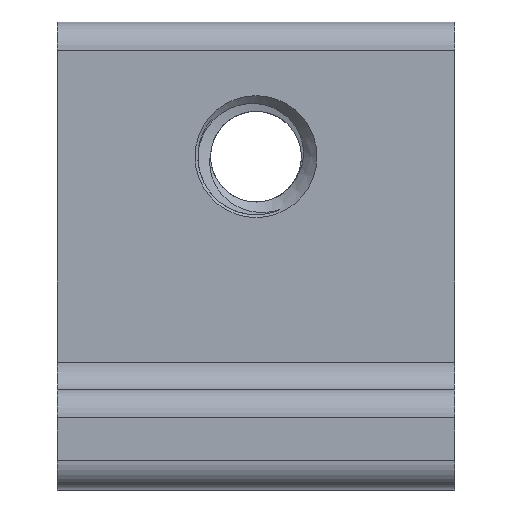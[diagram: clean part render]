
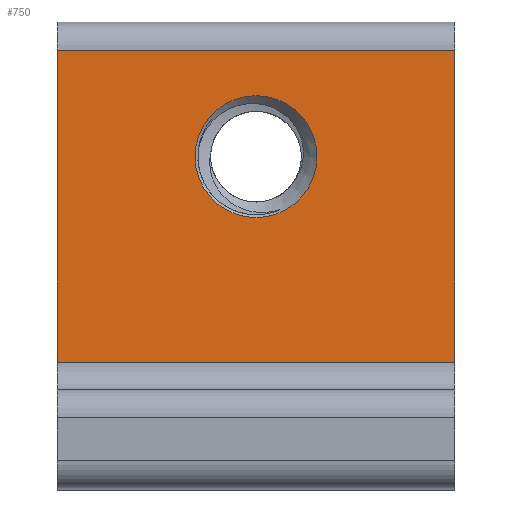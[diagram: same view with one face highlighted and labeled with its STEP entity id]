
A CAD part, top view. The second image highlights one B-rep face of the part: STEP entity #750.
In plain terms, the highlighted planar face has unit normal (0, 0, 1).
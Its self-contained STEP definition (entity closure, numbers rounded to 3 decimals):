
#32 = PLANE('',#33);
#33 = AXIS2_PLACEMENT_3D('',#34,#35,#36);
#34 = CARTESIAN_POINT('',(37.,-14.,-70.));
#35 = DIRECTION('',(1.,0.,0.));
#36 = DIRECTION('',(0.,0.,1.));
#179 = VERTEX_POINT('',#180);
#180 = CARTESIAN_POINT('',(37.,48.,-54.));
#199 = CYLINDRICAL_SURFACE('',#200,4.);
#200 = AXIS2_PLACEMENT_3D('',#201,#202,#203);
#201 = CARTESIAN_POINT('',(37.,48.,-58.));
#202 = DIRECTION('',(1.,0.,0.));
#203 = DIRECTION('',(0.,0.,1.));
#211 = EDGE_CURVE('',#212,#179,#214,.T.);
#212 = VERTEX_POINT('',#213);
#213 = CARTESIAN_POINT('',(37.,4.,-54.));
#214 = SURFACE_CURVE('',#215,(#219,#226),.PCURVE_S1.);
#215 = LINE('',#216,#217);
#216 = CARTESIAN_POINT('',(37.,-14.,-54.));
#217 = VECTOR('',#218,1.);
#218 = DIRECTION('',(0.,1.,0.));
#219 = PCURVE('',#32,#220);
#220 = DEFINITIONAL_REPRESENTATION('',(#221),#225);
#221 = LINE('',#222,#223);
#222 = CARTESIAN_POINT('',(16.,0.));
#223 = VECTOR('',#224,1.);
#224 = DIRECTION('',(0.,-1.));
#225 = ( GEOMETRIC_REPRESENTATION_CONTEXT(2) 
PARAMETRIC_REPRESENTATION_CONTEXT() REPRESENTATION_CONTEXT('2D SPACE',''
  ) );
#226 = PCURVE('',#227,#232);
#227 = PLANE('',#228);
#228 = AXIS2_PLACEMENT_3D('',#229,#230,#231);
#229 = CARTESIAN_POINT('',(37.,-14.,-54.));
#230 = DIRECTION('',(0.,0.,1.));
#231 = DIRECTION('',(1.,0.,-0.));
#232 = DEFINITIONAL_REPRESENTATION('',(#233),#237);
#233 = LINE('',#234,#235);
#234 = CARTESIAN_POINT('',(0.,0.));
#235 = VECTOR('',#236,1.);
#236 = DIRECTION('',(0.,1.));
#237 = ( GEOMETRIC_REPRESENTATION_CONTEXT(2) 
PARAMETRIC_REPRESENTATION_CONTEXT() REPRESENTATION_CONTEXT('2D SPACE',''
  ) );
#256 = CYLINDRICAL_SURFACE('',#257,4.);
#257 = AXIS2_PLACEMENT_3D('',#258,#259,#260);
#258 = CARTESIAN_POINT('',(37.,4.,-50.));
#259 = DIRECTION('',(1.,0.,0.));
#260 = DIRECTION('',(0.,-1.,0.));
#427 = PLANE('',#428);
#428 = AXIS2_PLACEMENT_3D('',#429,#430,#431);
#429 = CARTESIAN_POINT('',(93.,-14.,-70.));
#430 = DIRECTION('',(1.,0.,0.));
#431 = DIRECTION('',(0.,0.,1.));
#700 = EDGE_CURVE('',#179,#701,#703,.T.);
#701 = VERTEX_POINT('',#702);
#702 = CARTESIAN_POINT('',(93.,48.,-54.));
#703 = SURFACE_CURVE('',#704,(#708,#715),.PCURVE_S1.);
#704 = LINE('',#705,#706);
#705 = CARTESIAN_POINT('',(37.,48.,-54.));
#706 = VECTOR('',#707,1.);
#707 = DIRECTION('',(1.,0.,0.));
#708 = PCURVE('',#199,#709);
#709 = DEFINITIONAL_REPRESENTATION('',(#710),#714);
#710 = LINE('',#711,#712);
#711 = CARTESIAN_POINT('',(6.283,0.));
#712 = VECTOR('',#713,1.);
#713 = DIRECTION('',(-0.,1.));
#714 = ( GEOMETRIC_REPRESENTATION_CONTEXT(2) 
PARAMETRIC_REPRESENTATION_CONTEXT() REPRESENTATION_CONTEXT('2D SPACE',''
  ) );
#715 = PCURVE('',#227,#716);
#716 = DEFINITIONAL_REPRESENTATION('',(#717),#721);
#717 = LINE('',#718,#719);
#718 = CARTESIAN_POINT('',(0.,62.));
#719 = VECTOR('',#720,1.);
#720 = DIRECTION('',(1.,0.));
#721 = ( GEOMETRIC_REPRESENTATION_CONTEXT(2) 
PARAMETRIC_REPRESENTATION_CONTEXT() REPRESENTATION_CONTEXT('2D SPACE',''
  ) );
#750 = ADVANCED_FACE('',(#751,#799),#227,.T.);
#751 = FACE_BOUND('',#752,.T.);
#752 = EDGE_LOOP('',(#753,#754,#777,#798));
#753 = ORIENTED_EDGE('',*,*,#211,.F.);
#754 = ORIENTED_EDGE('',*,*,#755,.T.);
#755 = EDGE_CURVE('',#212,#756,#758,.T.);
#756 = VERTEX_POINT('',#757);
#757 = CARTESIAN_POINT('',(93.,4.,-54.));
#758 = SURFACE_CURVE('',#759,(#763,#770),.PCURVE_S1.);
#759 = LINE('',#760,#761);
#760 = CARTESIAN_POINT('',(37.,4.,-54.));
#761 = VECTOR('',#762,1.);
#762 = DIRECTION('',(1.,0.,0.));
#763 = PCURVE('',#227,#764);
#764 = DEFINITIONAL_REPRESENTATION('',(#765),#769);
#765 = LINE('',#766,#767);
#766 = CARTESIAN_POINT('',(0.,18.));
#767 = VECTOR('',#768,1.);
#768 = DIRECTION('',(1.,0.));
#769 = ( GEOMETRIC_REPRESENTATION_CONTEXT(2) 
PARAMETRIC_REPRESENTATION_CONTEXT() REPRESENTATION_CONTEXT('2D SPACE',''
  ) );
#770 = PCURVE('',#256,#771);
#771 = DEFINITIONAL_REPRESENTATION('',(#772),#776);
#772 = LINE('',#773,#774);
#773 = CARTESIAN_POINT('',(1.571,0.));
#774 = VECTOR('',#775,1.);
#775 = DIRECTION('',(0.,1.));
#776 = ( GEOMETRIC_REPRESENTATION_CONTEXT(2) 
PARAMETRIC_REPRESENTATION_CONTEXT() REPRESENTATION_CONTEXT('2D SPACE',''
  ) );
#777 = ORIENTED_EDGE('',*,*,#778,.T.);
#778 = EDGE_CURVE('',#756,#701,#779,.T.);
#779 = SURFACE_CURVE('',#780,(#784,#791),.PCURVE_S1.);
#780 = LINE('',#781,#782);
#781 = CARTESIAN_POINT('',(93.,-14.,-54.));
#782 = VECTOR('',#783,1.);
#783 = DIRECTION('',(0.,1.,0.));
#784 = PCURVE('',#227,#785);
#785 = DEFINITIONAL_REPRESENTATION('',(#786),#790);
#786 = LINE('',#787,#788);
#787 = CARTESIAN_POINT('',(56.,0.));
#788 = VECTOR('',#789,1.);
#789 = DIRECTION('',(0.,1.));
#790 = ( GEOMETRIC_REPRESENTATION_CONTEXT(2) 
PARAMETRIC_REPRESENTATION_CONTEXT() REPRESENTATION_CONTEXT('2D SPACE',''
  ) );
#791 = PCURVE('',#427,#792);
#792 = DEFINITIONAL_REPRESENTATION('',(#793),#797);
#793 = LINE('',#794,#795);
#794 = CARTESIAN_POINT('',(16.,0.));
#795 = VECTOR('',#796,1.);
#796 = DIRECTION('',(0.,-1.));
#797 = ( GEOMETRIC_REPRESENTATION_CONTEXT(2) 
PARAMETRIC_REPRESENTATION_CONTEXT() REPRESENTATION_CONTEXT('2D SPACE',''
  ) );
#798 = ORIENTED_EDGE('',*,*,#700,.F.);
#799 = FACE_BOUND('',#800,.T.);
#800 = EDGE_LOOP('',(#801));
#801 = ORIENTED_EDGE('',*,*,#802,.F.);
#802 = EDGE_CURVE('',#803,#803,#805,.T.);
#803 = VERTEX_POINT('',#804);
#804 = CARTESIAN_POINT('',(73.6,33.,-54.));
#805 = SURFACE_CURVE('',#806,(#811,#818),.PCURVE_S1.);
#806 = CIRCLE('',#807,8.6);
#807 = AXIS2_PLACEMENT_3D('',#808,#809,#810);
#808 = CARTESIAN_POINT('',(65.,33.,-54.));
#809 = DIRECTION('',(0.,0.,1.));
#810 = DIRECTION('',(1.,0.,-0.));
#811 = PCURVE('',#227,#812);
#812 = DEFINITIONAL_REPRESENTATION('',(#813),#817);
#813 = CIRCLE('',#814,8.6);
#814 = AXIS2_PLACEMENT_2D('',#815,#816);
#815 = CARTESIAN_POINT('',(28.,47.));
#816 = DIRECTION('',(1.,0.));
#817 = ( GEOMETRIC_REPRESENTATION_CONTEXT(2) 
PARAMETRIC_REPRESENTATION_CONTEXT() REPRESENTATION_CONTEXT('2D SPACE',''
  ) );
#818 = PCURVE('',#819,#824);
#819 = CONICAL_SURFACE('',#820,6.4,0.785);
#820 = AXIS2_PLACEMENT_3D('',#821,#822,#823);
#821 = CARTESIAN_POINT('',(65.,33.,-56.2));
#822 = DIRECTION('',(0.,0.,1.));
#823 = DIRECTION('',(1.,0.,-0.));
#824 = DEFINITIONAL_REPRESENTATION('',(#825),#829);
#825 = LINE('',#826,#827);
#826 = CARTESIAN_POINT('',(0.,2.2));
#827 = VECTOR('',#828,1.);
#828 = DIRECTION('',(1.,0.));
#829 = ( GEOMETRIC_REPRESENTATION_CONTEXT(2) 
PARAMETRIC_REPRESENTATION_CONTEXT() REPRESENTATION_CONTEXT('2D SPACE',''
  ) );
